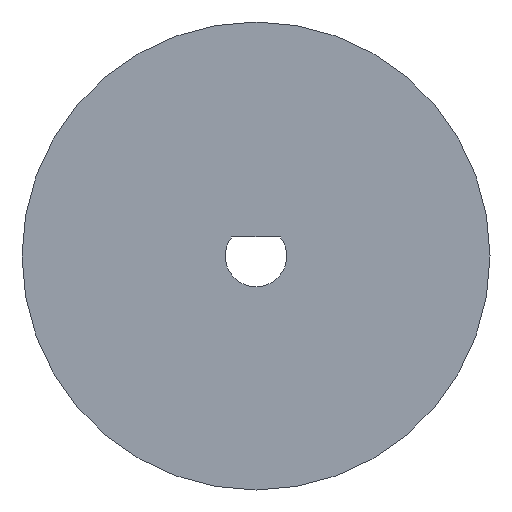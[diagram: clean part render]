
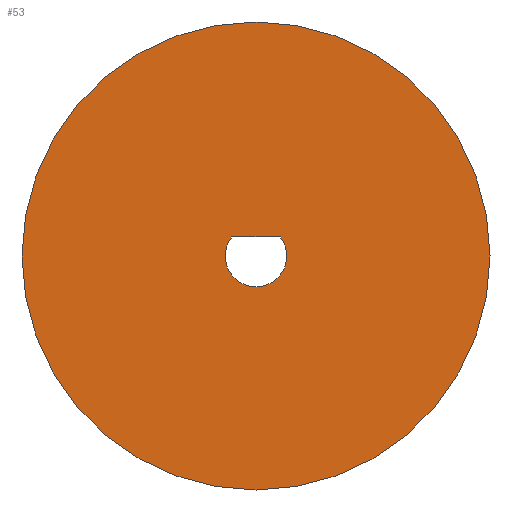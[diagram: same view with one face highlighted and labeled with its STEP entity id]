
A CAD part, front view. The second image highlights one B-rep face of the part: STEP entity #53.
In plain terms, the highlighted planar face has unit normal (0, -1, 0).
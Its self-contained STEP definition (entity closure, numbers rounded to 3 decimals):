
#53=ADVANCED_FACE('',(#60,#62),#64,.F.);
#60=FACE_BOUND('',#61,.T.);
#61=EDGE_LOOP('',(#119));
#62=FACE_BOUND('',#63,.T.);
#63=EDGE_LOOP('',(#120,#121));
#64=PLANE('',#65);
#65=AXIS2_PLACEMENT_3D('',#66,#67,#68);
#66=CARTESIAN_POINT('',(0.,8.061,0.));
#67=DIRECTION('',(0.,1.,0.));
#68=DIRECTION('',(-1.,0.,0.));
#119=ORIENTED_EDGE('',*,*,#139,.F.);
#120=ORIENTED_EDGE('',*,*,#140,.T.);
#121=ORIENTED_EDGE('',*,*,#141,.T.);
#139=EDGE_CURVE('',#149,#149,#150,.T.);
#140=EDGE_CURVE('',#151,#152,#153,.T.);
#141=EDGE_CURVE('',#152,#151,#154,.T.);
#149=VERTEX_POINT('',#167);
#150=CIRCLE('',#168,19.);
#151=VERTEX_POINT('',#172);
#152=VERTEX_POINT('',#173);
#153=CIRCLE('',#174,2.5);
#154=LINE('',#178,#179);
#167=CARTESIAN_POINT('',(-47.945,8.061,24.474));
#168=AXIS2_PLACEMENT_3D('',#169,#170,#171);
#169=CARTESIAN_POINT('',(-28.945,8.061,24.474));
#170=DIRECTION('',(0.,1.,0.));
#171=DIRECTION('',(-1.,0.,0.));
#172=CARTESIAN_POINT('',(-26.984,8.061,26.024));
#173=CARTESIAN_POINT('',(-30.907,8.061,26.024));
#174=AXIS2_PLACEMENT_3D('',#175,#176,#177);
#175=CARTESIAN_POINT('',(-28.945,8.061,24.474));
#176=DIRECTION('',(0.,1.,0.));
#177=DIRECTION('',(0.785,0.,0.62));
#178=CARTESIAN_POINT('',(-30.907,8.061,26.024));
#179=VECTOR('',#180,1.);
#180=DIRECTION('',(1.,0.,0.));
